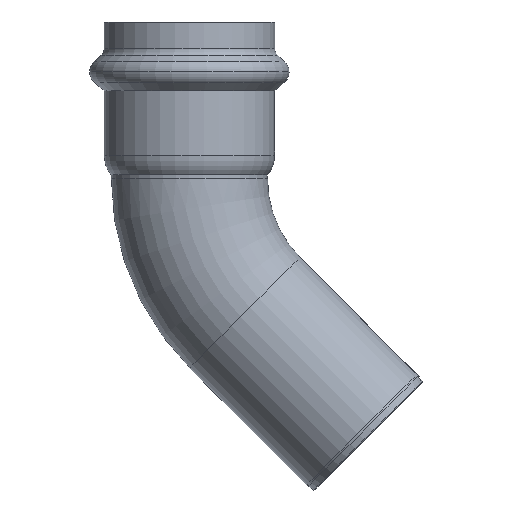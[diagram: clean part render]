
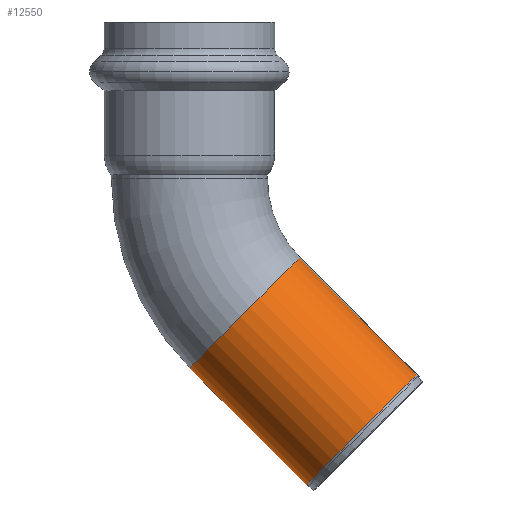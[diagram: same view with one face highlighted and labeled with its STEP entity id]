
A CAD part, top view. The second image highlights one B-rep face of the part: STEP entity #12550.
In plain terms, the highlighted cylindrical face has radius 21 mm (diameter 42 mm), a partial arc.
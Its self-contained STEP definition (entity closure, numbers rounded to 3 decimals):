
#1740=CARTESIAN_POINT('',(45.944,-0.011,0.));
#1750=DIRECTION('',(0.707,-0.707,0.));
#1760=DIRECTION('',(0.707,0.707,0.));
#1770=AXIS2_PLACEMENT_3D('',#1740,#1750,#1760);
#1780=CIRCLE('',#1770,21.);
#1790=CARTESIAN_POINT('',(60.619,14.664,
3.206));
#1800=VERTEX_POINT('',#1790);
#1810=CARTESIAN_POINT('',(31.095,-14.86,
0.));
#1820=VERTEX_POINT('',#1810);
#1830=EDGE_CURVE('',#1800,#1820,#1780,.T.);
#3930=CARTESIAN_POINT('',(61.759,-15.826,0.));
#3940=DIRECTION('',(0.707,-0.707,0.));
#3950=DIRECTION('',(-0.699,-0.699,
-0.153));
#3960=AXIS2_PLACEMENT_3D('',#3930,#3940,#3950);
#3970=CYLINDRICAL_SURFACE('',#3960,21.);
#3980=CARTESIAN_POINT('',(31.269,-14.686,
-3.206));
#3990=VERTEX_POINT('',#3980);
#4020=CARTESIAN_POINT('',(47.084,-30.501,
-3.206));
#4030=DIRECTION('',(0.707,-0.707,0.));
#4040=VECTOR('',#4030,1.);
#4050=LINE('',#4020,#4040);
#4060=CARTESIAN_POINT('',(62.713,-46.13,
-3.206));
#4070=VERTEX_POINT('',#4060);
#4080=EDGE_CURVE('',#3990,#4070,#4050,.T.);
#4100=CARTESIAN_POINT('',(77.388,-31.455,0.));
#4110=DIRECTION('',(0.707,-0.707,0.));
#4120=DIRECTION('',(0.707,0.707,0.));
#4130=AXIS2_PLACEMENT_3D('',#4100,#4110,#4120);
#4140=CIRCLE('',#4130,21.);
#4190=CARTESIAN_POINT('',(92.064,-16.78,
3.206));
#4200=VERTEX_POINT('',#4190);
#4230=CARTESIAN_POINT('',(76.434,-1.15,
3.206));
#4240=DIRECTION('',(0.707,-0.707,0.));
#4250=VECTOR('',#4240,1.);
#4260=LINE('',#4230,#4250);
#4270=EDGE_CURVE('',#1800,#4200,#4260,.T.);
#5720=CARTESIAN_POINT('',(62.539,-46.304,0.));
#5730=VERTEX_POINT('',#5720);
#5760=EDGE_CURVE('',#4200,#5730,#4140,.T.);
#11070=EDGE_CURVE('',#1820,#3990,#1780,.T.);
#12460=ORIENTED_EDGE('',*,*,#5760,.F.);
#12470=EDGE_CURVE('',#5730,#4070,#4140,.T.);
#12480=ORIENTED_EDGE('',*,*,#12470,.F.);
#12490=ORIENTED_EDGE('',*,*,#4080,.T.);
#12500=ORIENTED_EDGE('',*,*,#11070,.T.);
#12510=ORIENTED_EDGE('',*,*,#1830,.T.);
#12520=ORIENTED_EDGE('',*,*,#4270,.F.);
#12530=EDGE_LOOP('',(#12520,#12510,#12500,#12490,#12480,#12460));
#12540=FACE_OUTER_BOUND('',#12530,.T.);
#12550=ADVANCED_FACE('',(#12540),#3970,.T.);
